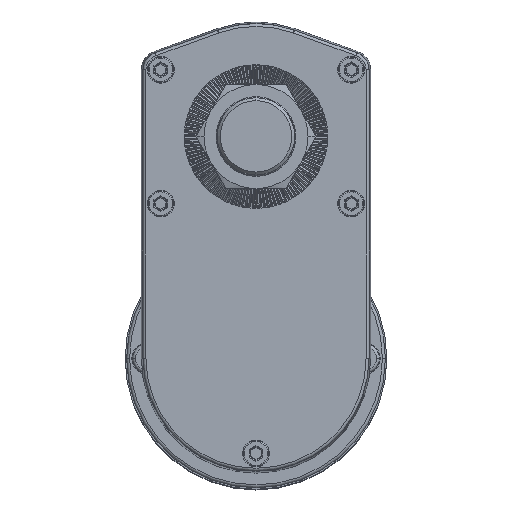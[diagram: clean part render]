
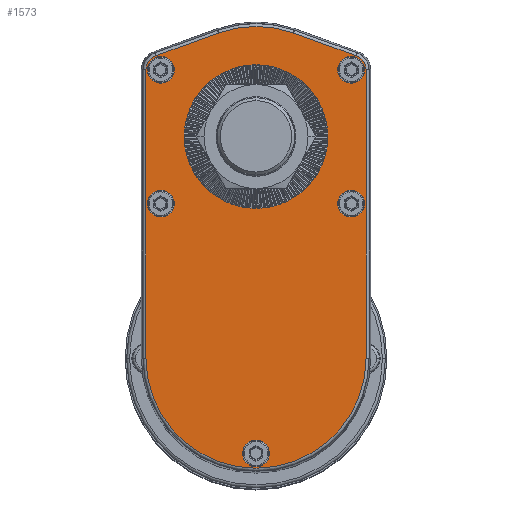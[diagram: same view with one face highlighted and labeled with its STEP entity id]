
A CAD part, top view. The second image highlights one B-rep face of the part: STEP entity #1573.
In plain terms, the highlighted planar face has unit normal (0, 0, 1).
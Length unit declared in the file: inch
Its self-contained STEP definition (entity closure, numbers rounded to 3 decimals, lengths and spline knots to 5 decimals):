
#1573=ADVANCED_FACE('NONE',(#3990,#3991,#3992,#3993,#3994,#3995,#3996),#3997,.F.);
#3990=FACE_OUTER_BOUND('',#7851,.T.);
#3991=FACE_BOUND('',#7852,.T.);
#3992=FACE_BOUND('',#7853,.T.);
#3993=FACE_BOUND('',#7854,.T.);
#3994=FACE_BOUND('',#7855,.T.);
#3995=FACE_BOUND('',#7856,.T.);
#3996=FACE_BOUND('',#7857,.T.);
#3997=PLANE('',#7858);
#7851=EDGE_LOOP('',(#15221,#15222,#15223,#15224,#15225,#15226,#15227,#15228));
#7852=EDGE_LOOP('',(#15229,#15230));
#7853=EDGE_LOOP('',(#15231,#15232));
#7854=EDGE_LOOP('',(#15233,#15234));
#7855=EDGE_LOOP('',(#15235,#15236));
#7856=EDGE_LOOP('',(#15237,#15238));
#7857=EDGE_LOOP('',(#15239,#15240));
#7858=AXIS2_PLACEMENT_3D('',#15241,#15242,#15243);
#15221=ORIENTED_EDGE('',*,*,#23982,.T.);
#15222=ORIENTED_EDGE('',*,*,#22859,.T.);
#15223=ORIENTED_EDGE('',*,*,#23983,.T.);
#15224=ORIENTED_EDGE('',*,*,#23984,.T.);
#15225=ORIENTED_EDGE('',*,*,#23156,.T.);
#15226=ORIENTED_EDGE('',*,*,#23858,.T.);
#15227=ORIENTED_EDGE('',*,*,#23985,.T.);
#15228=ORIENTED_EDGE('',*,*,#23214,.T.);
#15229=ORIENTED_EDGE('',*,*,#23986,.F.);
#15230=ORIENTED_EDGE('',*,*,#23987,.F.);
#15231=ORIENTED_EDGE('',*,*,#23988,.F.);
#15232=ORIENTED_EDGE('',*,*,#23989,.F.);
#15233=ORIENTED_EDGE('',*,*,#23990,.F.);
#15234=ORIENTED_EDGE('',*,*,#23991,.F.);
#15235=ORIENTED_EDGE('',*,*,#23992,.F.);
#15236=ORIENTED_EDGE('',*,*,#23127,.F.);
#15237=ORIENTED_EDGE('',*,*,#23993,.F.);
#15238=ORIENTED_EDGE('',*,*,#23480,.F.);
#15239=ORIENTED_EDGE('',*,*,#23994,.F.);
#15240=ORIENTED_EDGE('',*,*,#23995,.F.);
#15241=CARTESIAN_POINT('',(-0.25544,1.49611,28.17717));
#15242=DIRECTION('',(0.0,0.0,-1.0));
#15243=DIRECTION('',(0.0,-1.0,0.0));
#22859=EDGE_CURVE('NONE',#26692,#26697,#26699,.T.);
#23127=EDGE_CURVE('NONE',#27181,#27176,#27183,.T.);
#23156=EDGE_CURVE('NONE',#27229,#27227,#27230,.T.);
#23214=EDGE_CURVE('NONE',#27329,#27331,#27333,.T.);
#23480=EDGE_CURVE('NONE',#27789,#27784,#27791,.T.);
#23858=EDGE_CURVE('NONE',#27227,#28403,#28405,.T.);
#23982=EDGE_CURVE('NONE',#27331,#26692,#28608,.T.);
#23983=EDGE_CURVE('NONE',#26697,#28609,#28610,.T.);
#23984=EDGE_CURVE('NONE',#28609,#27229,#28611,.T.);
#23985=EDGE_CURVE('NONE',#28403,#27329,#28612,.T.);
#23986=EDGE_CURVE('NONE',#28613,#28614,#28615,.T.);
#23987=EDGE_CURVE('NONE',#28614,#28613,#28616,.T.);
#23988=EDGE_CURVE('NONE',#28617,#28618,#28619,.T.);
#23989=EDGE_CURVE('NONE',#28618,#28617,#28620,.T.);
#23990=EDGE_CURVE('NONE',#28621,#28622,#28623,.T.);
#23991=EDGE_CURVE('NONE',#28622,#28621,#28624,.T.);
#23992=EDGE_CURVE('NONE',#27176,#27181,#28625,.T.);
#23993=EDGE_CURVE('NONE',#27784,#27789,#28626,.T.);
#23994=EDGE_CURVE('NONE',#28627,#28628,#28629,.T.);
#23995=EDGE_CURVE('NONE',#28628,#28627,#28630,.T.);
#26692=VERTEX_POINT('NONE',#32287);
#26697=VERTEX_POINT('NONE',#32292);
#26699=CIRCLE('',#32294,1.45718);
#27176=VERTEX_POINT('NONE',#33273);
#27181=VERTEX_POINT('',#33279);
#27183=CIRCLE('',#33282,0.17717);
#27227=VERTEX_POINT('NONE',#33391);
#27229=VERTEX_POINT('NONE',#33393);
#27230=LINE('',#33394,#33395);
#27329=VERTEX_POINT('NONE',#33717);
#27331=VERTEX_POINT('NONE',#33719);
#27333=CIRCLE('',#33721,0.19754);
#27784=VERTEX_POINT('NONE',#34705);
#27789=VERTEX_POINT('',#34711);
#27791=CIRCLE('',#34714,0.17717);
#28403=VERTEX_POINT('NONE',#36149);
#28405=CIRCLE('',#36151,1.45738);
#28608=LINE('',#36616,#36617);
#28609=VERTEX_POINT('NONE',#36618);
#28610=LINE('',#36619,#36620);
#28611=CIRCLE('',#36621,0.19754);
#28612=LINE('',#36622,#36623);
#28613=VERTEX_POINT('NONE',#36624);
#28614=VERTEX_POINT('',#36625);
#28615=CIRCLE('',#36626,0.94882);
#28616=CIRCLE('',#36627,0.94882);
#28617=VERTEX_POINT('NONE',#36628);
#28618=VERTEX_POINT('',#36629);
#28619=CIRCLE('',#36630,0.17717);
#28620=CIRCLE('',#36631,0.17717);
#28621=VERTEX_POINT('NONE',#36632);
#28622=VERTEX_POINT('',#36633);
#28623=CIRCLE('',#36634,0.17717);
#28624=CIRCLE('',#36635,0.17717);
#28625=CIRCLE('',#36636,0.17717);
#28626=CIRCLE('',#36637,0.17717);
#28627=VERTEX_POINT('NONE',#36638);
#28628=VERTEX_POINT('',#36639);
#28629=CIRCLE('',#36640,0.17717);
#28630=CIRCLE('',#36641,0.17717);
#32287=CARTESIAN_POINT('',(-1.71262,-1.43676,28.17717));
#32292=CARTESIAN_POINT('',(1.20174,-1.43676,28.17717));
#32294=AXIS2_PLACEMENT_3D('',#46793,#46794,#46795);
#33273=CARTESIAN_POINT('',(-0.07827,-2.69837,28.17717));
#33279=CARTESIAN_POINT('',(-0.4326,-2.69837,28.17717));
#33282=AXIS2_PLACEMENT_3D('',#47100,#47101,#47102);
#33391=CARTESIAN_POINT('',(0.24005,2.86668,28.17717));
#33393=CARTESIAN_POINT('',(1.07137,2.56614,28.17717));
#33394=CARTESIAN_POINT('',(0.24005,2.86668,28.17717));
#33395=VECTOR('',#47138,39.37008);
#33717=CARTESIAN_POINT('',(-1.58224,2.56614,28.17717));
#33719=CARTESIAN_POINT('',(-1.71262,2.38037,28.17717));
#33721=AXIS2_PLACEMENT_3D('',#47191,#47192,#47193);
#34705=CARTESIAN_POINT('',(-1.33812,0.60871,28.17717));
#34711=CARTESIAN_POINT('',(-1.69245,0.60871,28.17717));
#34714=AXIS2_PLACEMENT_3D('',#47493,#47494,#47495);
#36149=CARTESIAN_POINT('',(-0.75093,2.86668,28.17717));
#36151=AXIS2_PLACEMENT_3D('',#47892,#47893,#47894);
#36616=CARTESIAN_POINT('',(-1.71262,-1.43676,28.17717));
#36617=VECTOR('',#48028,39.37008);
#36618=CARTESIAN_POINT('',(1.20174,2.38037,28.17717));
#36619=CARTESIAN_POINT('',(1.20174,2.38037,28.17717));
#36620=VECTOR('',#48029,39.37008);
#36621=AXIS2_PLACEMENT_3D('',#48030,#48031,#48032);
#36622=CARTESIAN_POINT('',(-1.58224,2.56614,28.17717));
#36623=VECTOR('',#48033,39.37008);
#36624=CARTESIAN_POINT('',(-1.20426,1.49611,28.17717));
#36625=CARTESIAN_POINT('',(0.69338,1.49611,28.17717));
#36626=AXIS2_PLACEMENT_3D('',#48034,#48035,#48036);
#36627=AXIS2_PLACEMENT_3D('',#48037,#48038,#48039);
#36628=CARTESIAN_POINT('',(0.82724,2.38037,28.17717));
#36629=CARTESIAN_POINT('',(1.18157,2.38037,28.17717));
#36630=AXIS2_PLACEMENT_3D('',#48040,#48041,#48042);
#36631=AXIS2_PLACEMENT_3D('',#48043,#48044,#48045);
#36632=CARTESIAN_POINT('',(0.82724,0.60871,28.17717));
#36633=CARTESIAN_POINT('',(1.18157,0.60871,28.17717));
#36634=AXIS2_PLACEMENT_3D('',#48046,#48047,#48048);
#36635=AXIS2_PLACEMENT_3D('',#48049,#48050,#48051);
#36636=AXIS2_PLACEMENT_3D('',#48052,#48053,#48054);
#36637=AXIS2_PLACEMENT_3D('',#48055,#48056,#48057);
#36638=CARTESIAN_POINT('',(-1.33812,2.38037,28.17717));
#36639=CARTESIAN_POINT('',(-1.69245,2.38037,28.17717));
#36640=AXIS2_PLACEMENT_3D('',#48058,#48059,#48060);
#36641=AXIS2_PLACEMENT_3D('',#48061,#48062,#48063);
#46793=CARTESIAN_POINT('',(-0.25544,-1.43676,28.17717));
#46794=DIRECTION('',(0.0,0.0,1.0));
#46795=DIRECTION('',(-1.0,0.0,0.0));
#47100=CARTESIAN_POINT('',(-0.25544,-2.69837,28.17717));
#47101=DIRECTION('',(0.0,0.0,1.0));
#47102=DIRECTION('',(1.0,0.0,0.0));
#47138=DIRECTION('',(-0.94,0.34,0.0));
#47191=CARTESIAN_POINT('',(-1.51508,2.38037,28.17717));
#47192=DIRECTION('',(0.0,0.0,1.0));
#47193=DIRECTION('',(-1.0,0.0,0.0));
#47493=CARTESIAN_POINT('',(-1.51528,0.60871,28.17717));
#47494=DIRECTION('',(0.0,0.0,1.0));
#47495=DIRECTION('',(1.0,0.0,0.0));
#47892=CARTESIAN_POINT('',(-0.25544,1.49611,28.17717));
#47893=DIRECTION('',(0.0,0.0,1.0));
#47894=DIRECTION('',(-1.0,0.,0.0));
#48028=DIRECTION('',(0.,-1.0,-0.0));
#48029=DIRECTION('',(0.,1.0,0.0));
#48030=CARTESIAN_POINT('',(1.00421,2.38037,28.17717));
#48031=DIRECTION('',(0.0,0.0,1.0));
#48032=DIRECTION('',(-1.0,0.,0.0));
#48033=DIRECTION('',(-0.94,-0.34,-0.0));
#48034=CARTESIAN_POINT('',(-0.25544,1.49611,28.17717));
#48035=DIRECTION('',(0.0,0.0,1.0));
#48036=DIRECTION('',(-1.0,0.0,0.0));
#48037=CARTESIAN_POINT('',(-0.25544,1.49611,28.17717));
#48038=DIRECTION('',(0.0,0.0,1.0));
#48039=DIRECTION('',(-1.0,0.0,0.0));
#48040=CARTESIAN_POINT('',(1.0044,2.38037,28.17717));
#48041=DIRECTION('',(0.0,0.0,1.0));
#48042=DIRECTION('',(-1.0,0.0,0.0));
#48043=CARTESIAN_POINT('',(1.0044,2.38037,28.17717));
#48044=DIRECTION('',(0.0,0.0,1.0));
#48045=DIRECTION('',(-1.0,0.0,0.0));
#48046=CARTESIAN_POINT('',(1.0044,0.60871,28.17717));
#48047=DIRECTION('',(0.0,0.0,1.0));
#48048=DIRECTION('',(-1.0,0.0,0.0));
#48049=CARTESIAN_POINT('',(1.0044,0.60871,28.17717));
#48050=DIRECTION('',(0.0,0.0,1.0));
#48051=DIRECTION('',(-1.0,0.0,0.0));
#48052=CARTESIAN_POINT('',(-0.25544,-2.69837,28.17717));
#48053=DIRECTION('',(0.0,0.0,1.0));
#48054=DIRECTION('',(1.0,0.0,0.0));
#48055=CARTESIAN_POINT('',(-1.51528,0.60871,28.17717));
#48056=DIRECTION('',(0.0,0.0,1.0));
#48057=DIRECTION('',(1.0,0.0,0.0));
#48058=CARTESIAN_POINT('',(-1.51528,2.38037,28.17717));
#48059=DIRECTION('',(0.0,0.0,1.0));
#48060=DIRECTION('',(1.0,0.0,0.0));
#48061=CARTESIAN_POINT('',(-1.51528,2.38037,28.17717));
#48062=DIRECTION('',(0.0,0.0,1.0));
#48063=DIRECTION('',(1.0,0.0,0.0));
